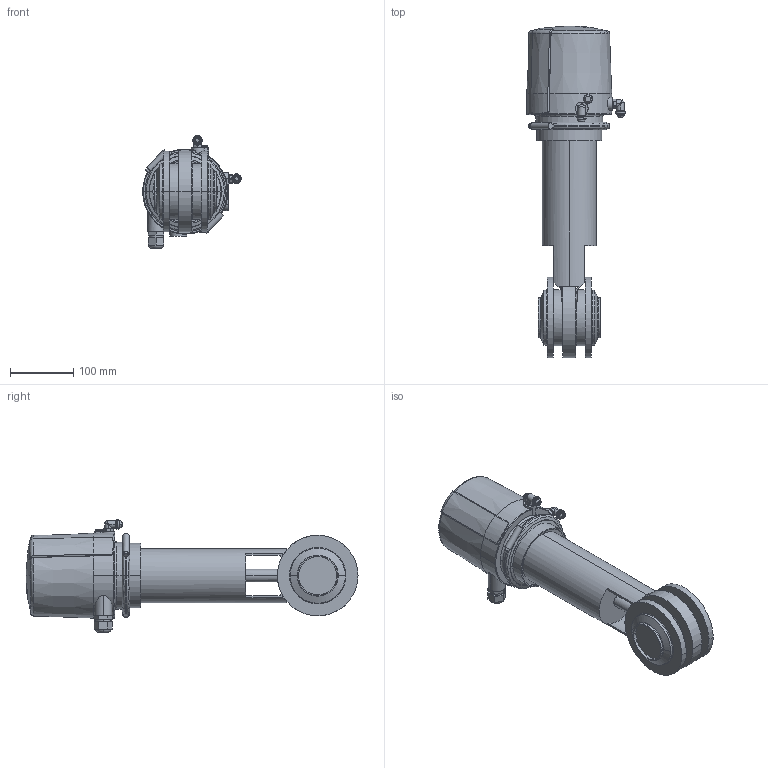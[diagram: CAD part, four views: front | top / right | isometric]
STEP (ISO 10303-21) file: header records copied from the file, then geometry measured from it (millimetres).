
FILE_DESCRIPTION(('Creo Elements/Direct Modeling STEP Export'),'2;1');
FILE_NAME('SVS1F-2.5zoll-CU4.stp','2013-05-24T11:40:22',(''),(''),'Creo Elements/Direct Modeling STEP processor for AP214 (Solid Model)','Creo Elements/Direct Modeling 17.0D 15-Jul-2011 (C) Parametric Technology GmbH','');
FILE_SCHEMA(('AUTOMOTIVE_DESIGN { 1 0 10303 214 1 1 1 1 }'));
Length unit declared in the file: millimetre
Products named in the file (4): SVS1F-2.5zoll-FZ-CU31; CU41-mit-T-Adapter; Luftanschluß; SVS1F-2.5zoll-CU4
Assembly tree (3 placements, depth 2):
  SVS1F-2.5zoll-CU4
    Luftanschluß
    CU41-mit-T-Adapter
    SVS1F-2.5zoll-FZ-CU31
Bounding box: 155.4 x 523.44 x 177.6 mm (x, y, z)
Volume: 3889356.6 mm3; surface area: 299381.5 mm2
Topology: 3 solids, 9 shells, 463 faces, 1185 edges, 753 vertices
Faces by surface type: plane 203, cylinder 149, torus 55, cone 40, bspline 10, sphere 6
Entity records: 23021 total; most frequent: CARTESIAN_POINT 11557, ORIENTED_EDGE 2382, DIRECTION 2045, EDGE_CURVE 1183, AXIS2_PLACEMENT_3D 782, VERTEX_POINT 753, EDGE_LOOP 512, VECTOR 481
